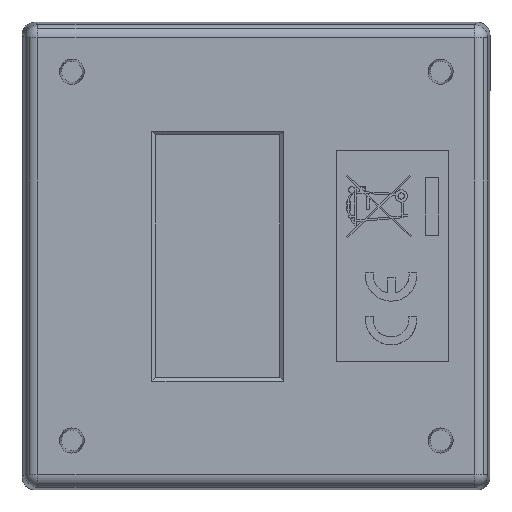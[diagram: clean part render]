
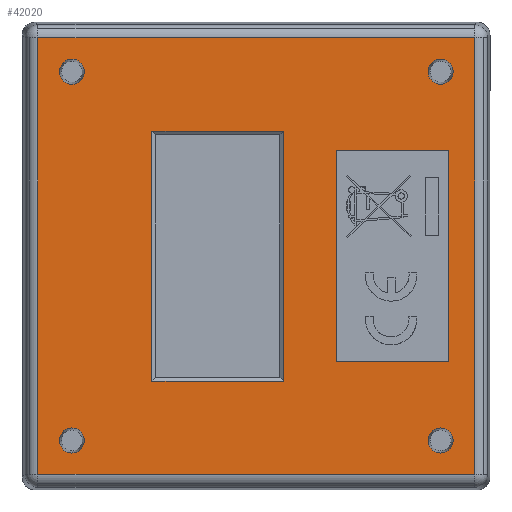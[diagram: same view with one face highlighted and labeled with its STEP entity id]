
A CAD part, front view. The second image highlights one B-rep face of the part: STEP entity #42020.
In plain terms, the highlighted planar face has unit normal (0, -1, 0) as drawn and (0, 0, -1) by its records, which use the part's own axes.
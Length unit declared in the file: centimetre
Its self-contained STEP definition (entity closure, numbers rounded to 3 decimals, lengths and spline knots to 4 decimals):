
#19303=CIRCLE('',#43435,0.1209);
#19304=CIRCLE('',#43436,0.1209);
#19305=CIRCLE('',#43437,0.1209);
#19306=CIRCLE('',#43438,0.1209);
#19307=CIRCLE('',#43439,0.1209);
#19308=CIRCLE('',#43440,0.1209);
#19309=CIRCLE('',#43441,0.1209);
#19310=CIRCLE('',#43442,0.1209);
#20810=VERTEX_POINT('',#52999);
#20811=VERTEX_POINT('',#53001);
#20813=VERTEX_POINT('',#53007);
#20815=VERTEX_POINT('',#53013);
#20910=VERTEX_POINT('',#53360);
#20911=VERTEX_POINT('',#53362);
#20913=VERTEX_POINT('',#53368);
#20915=VERTEX_POINT('',#53374);
#21040=VERTEX_POINT('',#54456);
#21041=VERTEX_POINT('',#54457);
#21042=VERTEX_POINT('',#54460);
#21043=VERTEX_POINT('',#54461);
#21044=VERTEX_POINT('',#54464);
#21045=VERTEX_POINT('',#54465);
#21046=VERTEX_POINT('',#54468);
#21047=VERTEX_POINT('',#54469);
#21048=VERTEX_POINT('',#54472);
#21049=VERTEX_POINT('',#54473);
#21050=VERTEX_POINT('',#54475);
#21051=VERTEX_POINT('',#54477);
#23189=VECTOR('',#46195,1.);
#23192=VECTOR('',#46199,1.);
#23195=VECTOR('',#46203,1.);
#23198=VECTOR('',#46207,1.);
#23329=VECTOR('',#46402,1.);
#23332=VECTOR('',#46406,1.);
#23335=VECTOR('',#46410,1.);
#23338=VECTOR('',#46414,1.);
#23501=VECTOR('',#46661,1.);
#23502=VECTOR('',#46662,1.);
#23503=VECTOR('',#46663,1.);
#23504=VECTOR('',#46664,1.);
#25837=LINE('',#53000,#23189);
#25840=LINE('',#53006,#23192);
#25843=LINE('',#53012,#23195);
#25846=LINE('',#53017,#23198);
#25977=LINE('',#53361,#23329);
#25980=LINE('',#53367,#23332);
#25983=LINE('',#53373,#23335);
#25986=LINE('',#53378,#23338);
#26149=LINE('',#54471,#23501);
#26150=LINE('',#54474,#23502);
#26151=LINE('',#54476,#23503);
#26152=LINE('',#54478,#23504);
#28557=EDGE_CURVE('',#20811,#20810,#25837,.T.);
#28560=EDGE_CURVE('',#20813,#20811,#25840,.T.);
#28563=EDGE_CURVE('',#20815,#20813,#25843,.T.);
#28566=EDGE_CURVE('',#20810,#20815,#25846,.T.);
#28707=EDGE_CURVE('',#20911,#20910,#25977,.T.);
#28710=EDGE_CURVE('',#20913,#20911,#25980,.T.);
#28713=EDGE_CURVE('',#20915,#20913,#25983,.T.);
#28716=EDGE_CURVE('',#20910,#20915,#25986,.T.);
#28903=EDGE_CURVE('',#21040,#21041,#19303,.T.);
#28904=EDGE_CURVE('',#21041,#21040,#19304,.T.);
#28905=EDGE_CURVE('',#21042,#21043,#19305,.T.);
#28906=EDGE_CURVE('',#21043,#21042,#19306,.T.);
#28907=EDGE_CURVE('',#21044,#21045,#19307,.T.);
#28908=EDGE_CURVE('',#21045,#21044,#19308,.T.);
#28909=EDGE_CURVE('',#21046,#21047,#19309,.T.);
#28910=EDGE_CURVE('',#21047,#21046,#19310,.T.);
#28911=EDGE_CURVE('',#21048,#21049,#26149,.T.);
#28912=EDGE_CURVE('',#21050,#21048,#26150,.T.);
#28913=EDGE_CURVE('',#21051,#21050,#26151,.T.);
#28914=EDGE_CURVE('',#21049,#21051,#26152,.T.);
#33297=ORIENTED_EDGE('',*,*,#28557,.T.);
#33298=ORIENTED_EDGE('',*,*,#28566,.T.);
#33299=ORIENTED_EDGE('',*,*,#28563,.T.);
#33300=ORIENTED_EDGE('',*,*,#28560,.T.);
#33301=ORIENTED_EDGE('',*,*,#28903,.T.);
#33302=ORIENTED_EDGE('',*,*,#28904,.T.);
#33303=ORIENTED_EDGE('',*,*,#28905,.T.);
#33304=ORIENTED_EDGE('',*,*,#28906,.T.);
#33305=ORIENTED_EDGE('',*,*,#28907,.T.);
#33306=ORIENTED_EDGE('',*,*,#28908,.T.);
#33307=ORIENTED_EDGE('',*,*,#28909,.T.);
#33308=ORIENTED_EDGE('',*,*,#28910,.T.);
#33309=ORIENTED_EDGE('',*,*,#28911,.F.);
#33310=ORIENTED_EDGE('',*,*,#28912,.F.);
#33311=ORIENTED_EDGE('',*,*,#28913,.F.);
#33312=ORIENTED_EDGE('',*,*,#28914,.F.);
#33313=ORIENTED_EDGE('',*,*,#28707,.T.);
#33314=ORIENTED_EDGE('',*,*,#28716,.T.);
#33315=ORIENTED_EDGE('',*,*,#28713,.T.);
#33316=ORIENTED_EDGE('',*,*,#28710,.T.);
#39071=EDGE_LOOP('',(#33297,#33298,#33299,#33300));
#39072=EDGE_LOOP('',(#33301,#33302));
#39073=EDGE_LOOP('',(#33303,#33304));
#39074=EDGE_LOOP('',(#33305,#33306));
#39075=EDGE_LOOP('',(#33307,#33308));
#39076=EDGE_LOOP('',(#33309,#33310,#33311,#33312));
#39077=EDGE_LOOP('',(#33313,#33314,#33315,#33316));
#40556=FACE_BOUND('',#39071,.T.);
#40557=FACE_BOUND('',#39072,.T.);
#40558=FACE_BOUND('',#39073,.T.);
#40559=FACE_BOUND('',#39074,.T.);
#40560=FACE_BOUND('',#39075,.T.);
#40561=FACE_BOUND('',#39076,.T.);
#40562=FACE_BOUND('',#39077,.T.);
#42020=ADVANCED_FACE('',(#40556,#40557,#40558,#40559,#40560,#40561,#40562),
#65008,.F.);
#43434=AXIS2_PLACEMENT_3D('',#54454,#46644,$);
#43435=AXIS2_PLACEMENT_3D('',#54455,#46645,#46646);
#43436=AXIS2_PLACEMENT_3D('',#54458,#46647,#46648);
#43437=AXIS2_PLACEMENT_3D('',#54459,#46649,#46650);
#43438=AXIS2_PLACEMENT_3D('',#54462,#46651,#46652);
#43439=AXIS2_PLACEMENT_3D('',#54463,#46653,#46654);
#43440=AXIS2_PLACEMENT_3D('',#54466,#46655,#46656);
#43441=AXIS2_PLACEMENT_3D('',#54467,#46657,#46658);
#43442=AXIS2_PLACEMENT_3D('',#54470,#46659,#46660);
#46195=DIRECTION('',(1.,0.,0.));
#46199=DIRECTION('',(0.,-1.,0.));
#46203=DIRECTION('',(-1.,0.,0.));
#46207=DIRECTION('',(0.,1.,0.));
#46402=DIRECTION('',(1.,0.,0.));
#46406=DIRECTION('',(0.,-1.,0.));
#46410=DIRECTION('',(-1.,0.,0.));
#46414=DIRECTION('',(0.,1.,0.));
#46644=DIRECTION('',(0.,0.,1.));
#46645=DIRECTION('',(0.,0.,1.));
#46646=DIRECTION('',(-0.121,0.,0.));
#46647=DIRECTION('',(0.,0.,1.));
#46648=DIRECTION('',(-0.121,0.,0.));
#46649=DIRECTION('',(0.,0.,1.));
#46650=DIRECTION('',(-0.121,0.,0.));
#46651=DIRECTION('',(0.,0.,1.));
#46652=DIRECTION('',(-0.121,0.,0.));
#46653=DIRECTION('',(0.,0.,1.));
#46654=DIRECTION('',(-0.121,0.,0.));
#46655=DIRECTION('',(0.,0.,1.));
#46656=DIRECTION('',(-0.121,0.,0.));
#46657=DIRECTION('',(0.,0.,1.));
#46658=DIRECTION('',(-0.121,0.,0.));
#46659=DIRECTION('',(0.,0.,1.));
#46660=DIRECTION('',(-0.121,0.,0.));
#46661=DIRECTION('',(-1.,0.,0.));
#46662=DIRECTION('',(0.,1.,0.));
#46663=DIRECTION('',(1.,0.,0.));
#46664=DIRECTION('',(0.,-1.,0.));
#52999=CARTESIAN_POINT('',(1.2065,-0.2639,-0.0032));
#53000=CARTESIAN_POINT('',(-1.2065,-0.2639,-0.0032));
#53001=CARTESIAN_POINT('',(-1.2065,-0.2639,-0.0032));
#53006=CARTESIAN_POINT('',(-1.2065,1.0061,-0.0032));
#53007=CARTESIAN_POINT('',(-1.2065,1.0061,-0.0032));
#53012=CARTESIAN_POINT('',(1.2065,1.0061,-0.0032));
#53013=CARTESIAN_POINT('',(1.2065,1.0061,-0.0032));
#53017=CARTESIAN_POINT('',(1.2065,-0.2639,-0.0032));
#53360=CARTESIAN_POINT('',(1.0178,-1.8531,-0.0032));
#53361=CARTESIAN_POINT('',(-1.0178,-1.8531,-0.0032));
#53362=CARTESIAN_POINT('',(-1.0178,-1.8531,-0.0032));
#53367=CARTESIAN_POINT('',(-1.0178,-0.7701,-0.0032));
#53368=CARTESIAN_POINT('',(-1.0178,-0.7701,-0.0032));
#53373=CARTESIAN_POINT('',(1.0178,-0.7701,-0.0032));
#53374=CARTESIAN_POINT('',(1.0178,-0.7701,-0.0032));
#53378=CARTESIAN_POINT('',(1.0178,-1.8531,-0.0032));
#54454=CARTESIAN_POINT('',(0.,0.,-0.0032));
#54455=CARTESIAN_POINT('',(1.778,1.778,-0.0032));
#54456=CARTESIAN_POINT('',(1.8989,1.778,-0.0032));
#54457=CARTESIAN_POINT('',(1.6571,1.778,-0.0032));
#54458=CARTESIAN_POINT('',(1.778,1.778,-0.0032));
#54459=CARTESIAN_POINT('',(1.778,-1.778,-0.0032));
#54460=CARTESIAN_POINT('',(1.8989,-1.778,-0.0032));
#54461=CARTESIAN_POINT('',(1.6571,-1.778,-0.0032));
#54462=CARTESIAN_POINT('',(1.778,-1.778,-0.0032));
#54463=CARTESIAN_POINT('',(-1.778,-1.778,-0.0032));
#54464=CARTESIAN_POINT('',(-1.6571,-1.778,-0.0032));
#54465=CARTESIAN_POINT('',(-1.8989,-1.778,-0.0032));
#54466=CARTESIAN_POINT('',(-1.778,-1.778,-0.0032));
#54467=CARTESIAN_POINT('',(-1.778,1.778,-0.0032));
#54468=CARTESIAN_POINT('',(-1.6571,1.778,-0.0032));
#54469=CARTESIAN_POINT('',(-1.8989,1.778,-0.0032));
#54470=CARTESIAN_POINT('',(-1.778,1.778,-0.0032));
#54471=CARTESIAN_POINT('',(2.1054,2.1054,-0.0032));
#54472=CARTESIAN_POINT('',(2.1054,2.1054,-0.0032));
#54473=CARTESIAN_POINT('',(-2.1054,2.1054,-0.0032));
#54474=CARTESIAN_POINT('',(2.1054,-2.1054,-0.0032));
#54475=CARTESIAN_POINT('',(2.1054,-2.1054,-0.0032));
#54476=CARTESIAN_POINT('',(-2.1054,-2.1054,-0.0032));
#54477=CARTESIAN_POINT('',(-2.1054,-2.1054,-0.0032));
#54478=CARTESIAN_POINT('',(-2.1054,2.1054,-0.0032));
#65008=PLANE('',#43434);
